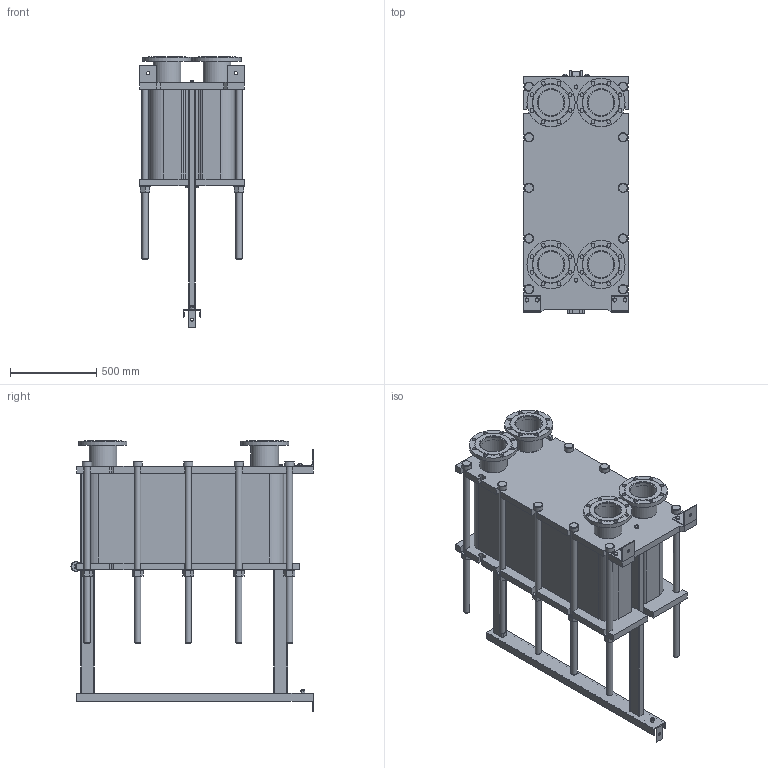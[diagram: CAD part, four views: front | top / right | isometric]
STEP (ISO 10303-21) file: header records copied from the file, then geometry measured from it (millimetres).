
FILE_DESCRIPTION(/* description */ (''),/* implementation_level */ '2;1');
FILE_NAME(/* name */ 'C:\Users\zhuro\Desktop\ENCO\TO\ЭН-041\ЭН-0,5-041-151-1.stp',/* time_stamp */ '2022-06-06T11:01:41+03:00',/* author */ ('zhuro'),/* organization */ (''),/* preprocessor_version */ 'ST-DEVELOPER v18.1',/* originating_system */ 'Autodesk Inventor 2022',/* authorisation */ '');
FILE_SCHEMA (('AUTOMOTIVE_DESIGN { 1 0 10303 214 3 1 1 }'));
Length unit declared in the file: millimetre
Products named in the file (1): ЭН-0,5-041-151-1
Bounding box: 610 x 1406.5 x 1572.5 mm (x, y, z)
Volume: 377058752.8 mm3; surface area: 10149019.3 mm2
Topology: 52 solids, 52 shells, 711 faces, 1696 edges, 1094 vertices
Faces by surface type: plane 487, cylinder 177, cone 41, torus 6
Full cylindrical faces by diameter (mm): 8 x4, 10 x2, 16 x8, 18 x3, 22 x32, 36 x24, 50 x1, 54 x10, 60 x12, 151 x4, 161 x8, 280 x4
Entity records: 22667 total; most frequent: CARTESIAN_POINT 5230, DIRECTION 3644, ORIENTED_EDGE 3392, EDGE_CURVE 1696, AXIS2_PLACEMENT_3D 1272, LINE 1100, VECTOR 1100, VERTEX_POINT 1094
